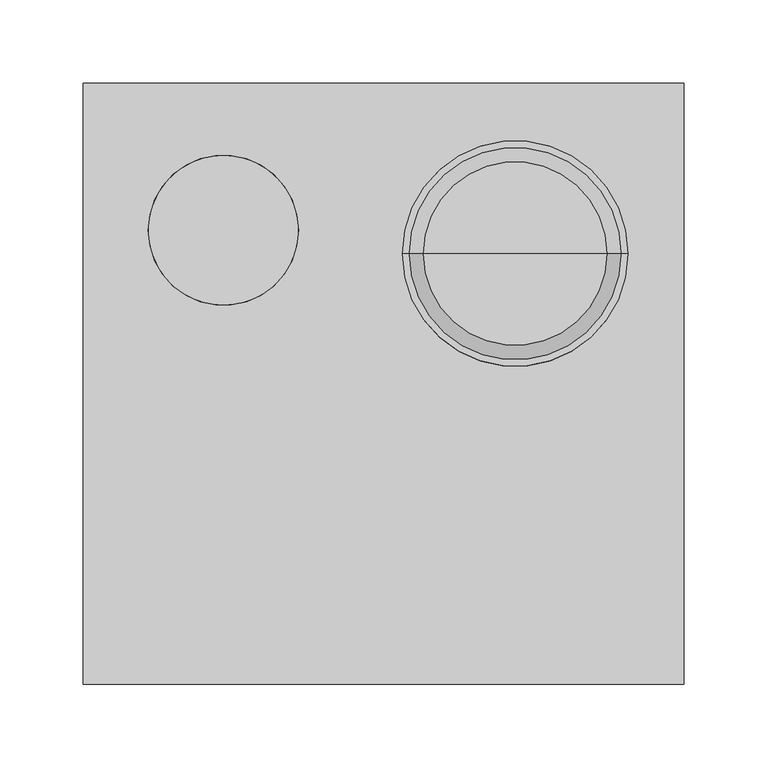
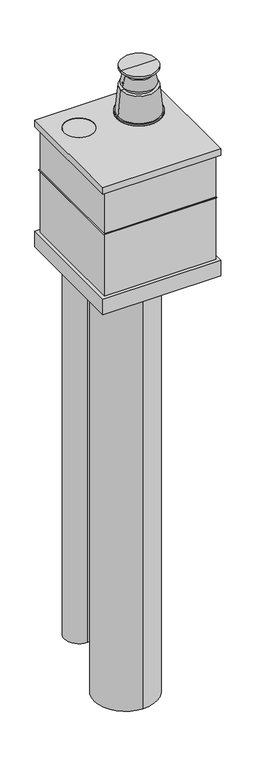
"""IFC4 building model written with IfcOpenShell, lengths in millimetres: proxy geometry, MG_BPL_Mini-Delta_M&G : NORMALE PP 60/100 XL."""

from ifc_helpers import new_model, si_unit, point, frame, frame_2d, origin, place, context, project, spatial, polyline, circle_curve, trimmed, segment, composite_curve, outline, extrude, faceted_brep, source, transform, mapped, element, save
from ifc_brep_helpers import plane_surface, cylinder_surface, revolved_surface, advanced_brep


def generic_models_c5c0e6ee(model_context):
    return source(origin(), model_context, "Body", "SolidModel", [
        advanced_brep(
        [(166.5, 78.0, 568.2650457), (-8.5, 78.0, 568.2650457), (79.0, 78.0, 568.2650457), (146.6156617, 78.0, 677.2650457), (11.3843383, 78.0, 677.2650457), (146.6156617, 78.0, 682.2650457), (11.3843383, 78.0, 682.2650457), (142.6549252, 78.0, 682.2650457), (15.3450748, 78.0, 682.2650457), (134.0, 78.0, 764.611158), (24.0, 78.0, 764.611158), (124.0, 78.0, 764.611158), (34.0, 78.0, 764.611158), (124.0, 78.0, 774.611158), (34.0, 78.0, 774.611158), (129.038744, 78.0, 774.611158), (28.961256, 78.0, 774.611158), (121.5, 78.0, 807.2650457), (36.5, 78.0, 807.2650457), (89.0, 78.0, 807.2650457), (69.0, 78.0, 807.2650457), (89.0, 78.0, 809.2457936), (69.0, 78.0, 809.2457936), (134.0, 78.0, 821.3035072), (24.0, 78.0, 821.3035072), (134.0, 78.0, 827.2650457), (24.0, 78.0, 827.2650457), (79.0, 78.0, 827.2650457)],
        [
            (0, 1, circle_curve(frame((79.0, 78.0, 568.2650457), z_axis=(0.0, 0.0, -1.0), x_axis=(-1.0, 0.0, 0.0)), 87.5)),
            (1, 2),
            (2, 0),
            (1, 0, circle_curve(frame((79.0, 78.0, 568.2650457), z_axis=(0.0, 0.0, -1.0), x_axis=(-1.0, 0.0, 0.0)), 87.5)),
            (3, 4, circle_curve(frame((79.0, 78.0, 677.2650457), z_axis=(0.0, 0.0, -1.0), x_axis=(-1.0, 0.0, 0.0)), 67.6156617)),
            (4, 1),
            (0, 3),
            (4, 3, circle_curve(frame((79.0, 78.0, 677.2650457), z_axis=(0.0, 0.0, -1.0), x_axis=(-1.0, 0.0, 0.0)), 67.6156617)),
            (5, 6, circle_curve(frame((79.0, 78.0, 682.2650457), z_axis=(0.0, 0.0, -1.0), x_axis=(-1.0, 0.0, 0.0)), 67.6156617)),
            (6, 4),
            (3, 5),
            (6, 5, circle_curve(frame((79.0, 78.0, 682.2650457), z_axis=(0.0, 0.0, -1.0), x_axis=(-1.0, 0.0, 0.0)), 67.6156617)),
            (7, 8, circle_curve(frame((79.0, 78.0, 682.2650457), z_axis=(0.0, 0.0, -1.0), x_axis=(-1.0, 0.0, 0.0)), 63.6549252)),
            (8, 6),
            (5, 7),
            (8, 7, circle_curve(frame((79.0, 78.0, 682.2650457), z_axis=(0.0, 0.0, -1.0), x_axis=(-1.0, 0.0, 0.0)), 63.6549252)),
            (9, 10, circle_curve(frame((79.0, 78.0, 764.611158), z_axis=(0.0, 0.0, -1.0), x_axis=(-1.0, 0.0, 0.0)), 55.0)),
            (10, 8),
            (7, 9),
            (10, 9, circle_curve(frame((79.0, 78.0, 764.611158), z_axis=(0.0, 0.0, -1.0), x_axis=(-1.0, 0.0, 0.0)), 55.0)),
            (11, 12, circle_curve(frame((79.0, 78.0, 764.611158), z_axis=(0.0, 0.0, -1.0), x_axis=(-1.0, 0.0, 0.0)), 45.0)),
            (12, 10),
            (9, 11),
            (12, 11, circle_curve(frame((79.0, 78.0, 764.611158), z_axis=(0.0, 0.0, -1.0), x_axis=(-1.0, 0.0, 0.0)), 45.0)),
            (13, 14, circle_curve(frame((79.0, 78.0, 774.611158), z_axis=(0.0, 0.0, -1.0), x_axis=(-1.0, 0.0, 0.0)), 45.0)),
            (14, 12),
            (11, 13),
            (14, 13, circle_curve(frame((79.0, 78.0, 774.611158), z_axis=(0.0, 0.0, -1.0), x_axis=(-1.0, 0.0, 0.0)), 45.0)),
            (15, 16, circle_curve(frame((79.0, 78.0, 774.611158), z_axis=(0.0, 0.0, -1.0), x_axis=(-1.0, 0.0, 0.0)), 50.038744)),
            (16, 14),
            (13, 15),
            (16, 15, circle_curve(frame((79.0, 78.0, 774.611158), z_axis=(0.0, 0.0, -1.0), x_axis=(-1.0, 0.0, 0.0)), 50.038744)),
            (17, 18, circle_curve(frame((79.0, 78.0, 807.2650457), z_axis=(0.0, 0.0, -1.0), x_axis=(-1.0, 0.0, 0.0)), 42.5)),
            (18, 16),
            (15, 17),
            (18, 17, circle_curve(frame((79.0, 78.0, 807.2650457), z_axis=(0.0, 0.0, -1.0), x_axis=(-1.0, 0.0, 0.0)), 42.5)),
            (19, 20, circle_curve(frame((79.0, 78.0, 807.2650457), z_axis=(0.0, 0.0, -1.0), x_axis=(-1.0, 0.0, 0.0)), 10.0)),
            (20, 18),
            (17, 19),
            (20, 19, circle_curve(frame((79.0, 78.0, 807.2650457), z_axis=(0.0, 0.0, -1.0), x_axis=(-1.0, 0.0, 0.0)), 10.0)),
            (21, 22, circle_curve(frame((79.0, 78.0, 809.2457936), z_axis=(0.0, 0.0, -1.0), x_axis=(-1.0, 0.0, 0.0)), 10.0)),
            (22, 20),
            (19, 21),
            (22, 21, circle_curve(frame((79.0, 78.0, 809.2457936), z_axis=(0.0, 0.0, -1.0), x_axis=(-1.0, 0.0, 0.0)), 10.0)),
            (23, 24, circle_curve(frame((79.0, 78.0, 821.3035072), z_axis=(0.0, 0.0, -1.0), x_axis=(-1.0, 0.0, 0.0)), 55.0)),
            (24, 22),
            (21, 23),
            (24, 23, circle_curve(frame((79.0, 78.0, 821.3035072), z_axis=(0.0, 0.0, -1.0), x_axis=(-1.0, 0.0, 0.0)), 55.0)),
            (25, 26, circle_curve(frame((79.0, 78.0, 827.2650457), z_axis=(0.0, 0.0, -1.0), x_axis=(-1.0, 0.0, 0.0)), 55.0)),
            (26, 24),
            (23, 25),
            (26, 25, circle_curve(frame((79.0, 78.0, 827.2650457), z_axis=(0.0, 0.0, -1.0), x_axis=(-1.0, 0.0, 0.0)), 55.0)),
            (27, 26),
            (25, 27),
        ],
        [
            plane_surface(frame((79.0, 78.0, 568.2650457), z_axis=(0.0, 0.0, -1.0), x_axis=(-1.0, 0.0, 0.0))),
            revolved_surface(polyline([(-8.5, 78.0, 568.2650457), (11.3843383, 78.0, 677.2650457)]), (79.0, 78.0, -231.4661326), (0.0, 0.0, 1.0)),
            cylinder_surface(frame((79.0, 78.0, -231.4661326), z_axis=(0.0, 0.0, 1.0), x_axis=(-1.0, 0.0, 0.0)), 67.6156617),
            plane_surface(frame((79.0, 78.0, 682.2650457), z_axis=(0.0, 0.0, 1.0), x_axis=(-1.0, 0.0, 0.0))),
            revolved_surface(polyline([(15.3450748, 78.0, 682.2650457), (24.0, 78.0, 764.611158)]), (79.0, 78.0, -231.4661326), (0.0, 0.0, 1.0)),
            plane_surface(frame((79.0, 78.0, 764.611158), z_axis=(0.0, 0.0, 1.0), x_axis=(-1.0, 0.0, 0.0))),
            cylinder_surface(frame((79.0, 78.0, -231.4661326), z_axis=(0.0, 0.0, 1.0), x_axis=(-1.0, 0.0, 0.0)), 45.0),
            plane_surface(frame((79.0, 78.0, 774.611158), z_axis=(0.0, 0.0, -1.0), x_axis=(-1.0, 0.0, 0.0))),
            revolved_surface(polyline([(28.961256, 78.0, 774.611158), (36.5, 78.0, 807.2650457)]), (79.0, 78.0, -231.4661326), (0.0, 0.0, 1.0)),
            plane_surface(frame((79.0, 78.0, 807.2650457), z_axis=(0.0, 0.0, 1.0), x_axis=(-1.0, 0.0, 0.0))),
            cylinder_surface(frame((79.0, 78.0, -231.4661326), z_axis=(0.0, 0.0, 1.0), x_axis=(-1.0, 0.0, 0.0)), 10.0),
            revolved_surface(polyline([(69.0, 78.0, 809.2457936), (24.0, 78.0, 821.3035072)]), (79.0, 78.0, -231.4661326), (0.0, 0.0, 1.0)),
            cylinder_surface(frame((79.0, 78.0, -231.4661326), z_axis=(0.0, 0.0, 1.0), x_axis=(-1.0, 0.0, 0.0)), 55.0),
            plane_surface(frame((79.0, 78.0, 827.2650457), z_axis=(0.0, 0.0, 1.0), x_axis=(-1.0, 0.0, 0.0))),
        ],
        [
            (0, [[1, 2, 3]]),
            (0, [[4, -3, -2]]),
            (1, [[5, 6, -1, 7]]),
            (1, [[8, -7, -4, -6]]),
            (2, [[9, 10, -5, 11]]),
            (2, [[12, -11, -8, -10]]),
            (3, [[13, 14, -9, 15]]),
            (3, [[16, -15, -12, -14]]),
            (4, [[17, 18, -13, 19]]),
            (4, [[20, -19, -16, -18]]),
            (5, [[21, 22, -17, 23]]),
            (5, [[24, -23, -20, -22]]),
            (6, [[25, 26, -21, 27]]),
            (6, [[28, -27, -24, -26]]),
            (7, [[29, 30, -25, 31]]),
            (7, [[32, -31, -28, -30]]),
            (8, [[33, 34, -29, 35]]),
            (8, [[36, -35, -32, -34]]),
            (9, [[37, 38, -33, 39]]),
            (9, [[40, -39, -36, -38]]),
            (10, [[41, 42, -37, 43]]),
            (10, [[44, -43, -40, -42]]),
            (11, [[45, 46, -41, 47]]),
            (11, [[48, -47, -44, -46]]),
            (12, [[49, 50, -45, 51]]),
            (12, [[52, -51, -48, -50]]),
            (13, [[53, -49, 54]]),
            (13, [[-54, -52, -53]]),
        ],
    ),
        extrude(outline(polyline([(172.5, 172.5), (172.5, -172.5), (-172.5, -172.5), (-172.5, 172.5), (172.5, 172.5)])), frame((0.0, 0.0, 518.2650457), z_axis=(0.0, 0.0, 1.0), x_axis=(1.0, 0.0, 0.0)), (0.0, 0.0, 1.0), 1.3),
        extrude(outline(composite_curve([segment(trimmed(circle_curve(frame_2d((-96.0, 92.0)), 45.0), [point((-96.0, 47.0))], [point((-96.0, 137.0))], False, "CARTESIAN"), True, "CONTINUOUS"), segment(trimmed(circle_curve(frame_2d((-96.0, 92.0)), 45.0), [point((-96.0, 137.0))], [point((-96.0, 47.0))], False, "CARTESIAN"), True, "CONTINUOUS")], self_intersect=False)), frame((0.0, 0.0, -957.7349543), z_axis=(0.0, 0.0, 1.0), x_axis=(1.0, 0.0, 0.0)), (0.0, 0.0, 1.0), 1633.7),
        extrude(outline(composite_curve([segment(trimmed(circle_curve(frame_2d((79.0, 78.0)), 50.0), [point((79.0, 28.0))], [point((79.0, 128.0))], False, "CARTESIAN"), True, "CONTINUOUS"), segment(trimmed(circle_curve(frame_2d((79.0, 78.0)), 50.0), [point((79.0, 128.0))], [point((79.0, 28.0))], False, "CARTESIAN"), True, "CONTINUOUS")], self_intersect=False)), frame((0.0, 0.0, -791.7349543), z_axis=(0.0, 0.0, 1.0), x_axis=(1.0, 0.0, 0.0)), (0.0, 0.0, 1.0), 1449.0),
        extrude(outline(composite_curve([segment(trimmed(circle_curve(frame_2d((-31.0, -41.0)), 95.0), [point((-31.0, -136.0))], [point((-31.0, 54.0))], False, "CARTESIAN"), True, "CONTINUOUS"), segment(trimmed(circle_curve(frame_2d((-31.0, -41.0)), 95.0), [point((-31.0, 54.0))], [point((-31.0, -136.0))], False, "CARTESIAN"), True, "CONTINUOUS")], self_intersect=False)), frame((0.0, 0.0, -1083.7349543), z_axis=(0.0, 0.0, 1.0), x_axis=(1.0, 0.0, 0.0)), (0.0, 0.0, 1.0), 1500.0),
        advanced_brep(
        [(180.0, 180.0, 677.2650457), (-180.0, 180.0, 677.2650457), (-180.0, -180.0, 677.2650457), (180.0, -180.0, 677.2650457), (-141.0, 92.0, 677.2650457), (-51.0, 92.0, 677.2650457), (180.0, 180.0, 657.2650457), (180.0, -180.0, 657.2650457), (-180.0, -180.0, 657.2650457), (-180.0, 180.0, 657.2650457), (178.7, 178.7, 657.2650457), (-178.7, 178.7, 657.2650457), (-178.7, -178.7, 657.2650457), (178.7, -178.7, 657.2650457), (170.0, 170.0, 657.2650457), (170.0, -170.0, 657.2650457), (-170.0, -170.0, 657.2650457), (-170.0, 170.0, 657.2650457), (168.7, -168.7, 657.2650457), (168.7, 168.7, 657.2650457), (-168.7, 168.7, 657.2650457), (-168.7, -168.7, 657.2650457), (178.7, 178.7, 675.9650457), (178.7, -178.7, 675.9650457), (-178.7, -178.7, 675.9650457), (-178.7, 178.7, 675.9650457), (170.0, 170.0, 675.9650457), (-170.0, 170.0, 675.9650457), (-170.0, -170.0, 675.9650457), (170.0, -170.0, 675.9650457), (168.7, -168.7, 675.9650457), (-168.7, -168.7, 675.9650457), (-168.7, 168.7, 675.9650457), (168.7, 168.7, 675.9650457), (-51.0, 92.0, 675.9650457), (-141.0, 92.0, 675.9650457)],
        [
            (0, 1),
            (1, 2),
            (2, 3),
            (3, 0),
            (4, 5, circle_curve(frame((-96.0, 92.0, 677.2650457), z_axis=(0.0, 0.0, -1.0), x_axis=(1.0, 0.0, 0.0)), 45.0)),
            (5, 4, circle_curve(frame((-96.0, 92.0, 677.2650457), z_axis=(0.0, 0.0, -1.0), x_axis=(1.0, 0.0, 0.0)), 45.0)),
            (6, 7),
            (7, 8),
            (8, 9),
            (9, 6),
            (10, 11),
            (11, 12),
            (12, 13),
            (13, 10),
            (14, 15),
            (15, 16),
            (16, 17),
            (17, 14),
            (18, 19),
            (19, 20),
            (20, 21),
            (21, 18),
            (0, 6),
            (9, 1),
            (8, 2),
            (7, 3),
            (22, 23),
            (23, 24),
            (24, 25),
            (25, 22),
            (26, 27),
            (27, 28),
            (28, 29),
            (29, 26),
            (30, 31),
            (31, 32),
            (32, 33),
            (33, 30),
            (34, 35, circle_curve(frame((-96.0, 92.0, 675.9650457), z_axis=(0.0, 0.0, 1.0), x_axis=(1.0, 0.0, 0.0)), 45.0)),
            (35, 34, circle_curve(frame((-96.0, 92.0, 675.9650457), z_axis=(0.0, 0.0, 1.0), x_axis=(1.0, 0.0, 0.0)), 45.0)),
            (25, 11),
            (10, 22),
            (24, 12),
            (23, 13),
            (29, 15),
            (14, 26),
            (28, 16),
            (27, 17),
            (33, 19),
            (18, 30),
            (32, 20),
            (31, 21),
            (4, 35),
            (34, 5),
        ],
        [
            plane_surface(frame((-180.0, 180.0, 677.2650457), z_axis=(0.0, 0.0, 1.0), x_axis=(-1.0, 0.0, 0.0))),
            plane_surface(frame((-180.0, 180.0, 657.2650457), z_axis=(0.0, 0.0, -1.0), x_axis=(1.0, 0.0, 0.0))),
            plane_surface(frame((180.0, 180.0, 677.2650457), z_axis=(0.0, 1.0, 0.0), x_axis=(0.0, 0.0, -1.0))),
            plane_surface(frame((-180.0, 180.0, 677.2650457), z_axis=(-1.0, 0.0, 0.0), x_axis=(0.0, 0.0, -1.0))),
            plane_surface(frame((-180.0, -180.0, 677.2650457), z_axis=(0.0, -1.0, 0.0), x_axis=(0.0, 0.0, -1.0))),
            plane_surface(frame((180.0, -180.0, 677.2650457), z_axis=(1.0, 0.0, 0.0), x_axis=(0.0, 0.0, -1.0))),
            plane_surface(frame((-170.0, 178.7, 675.9650457), z_axis=(0.0, 0.0, -1.0), x_axis=(-1.0, 0.0, 0.0))),
            plane_surface(frame((178.7, 178.7, 675.9650457), z_axis=(0.0, -1.0, 0.0), x_axis=(0.0, 0.0, -1.0))),
            plane_surface(frame((-178.7, 178.7, 675.9650457), z_axis=(1.0, 0.0, 0.0), x_axis=(0.0, 0.0, -1.0))),
            plane_surface(frame((-178.7, -178.7, 675.9650457), z_axis=(0.0, 1.0, 0.0), x_axis=(0.0, 0.0, -1.0))),
            plane_surface(frame((178.7, -178.7, 675.9650457), z_axis=(-1.0, 0.0, 0.0), x_axis=(0.0, 0.0, -1.0))),
            plane_surface(frame((170.0, 170.0, 675.9650457), z_axis=(1.0, 0.0, 0.0), x_axis=(0.0, 0.0, -1.0))),
            plane_surface(frame((170.0, -170.0, 675.9650457), z_axis=(0.0, -1.0, 0.0), x_axis=(0.0, 0.0, -1.0))),
            plane_surface(frame((-170.0, -170.0, 675.9650457), z_axis=(-1.0, 0.0, 0.0), x_axis=(0.0, 0.0, -1.0))),
            plane_surface(frame((-170.0, 170.0, 675.9650457), z_axis=(0.0, 1.0, 0.0), x_axis=(0.0, 0.0, -1.0))),
            plane_surface(frame((168.7, -168.7, 675.9650457), z_axis=(-1.0, 0.0, 0.0), x_axis=(0.0, 0.0, -1.0))),
            plane_surface(frame((168.7, 168.7, 675.9650457), z_axis=(0.0, -1.0, 0.0), x_axis=(0.0, 0.0, -1.0))),
            plane_surface(frame((-168.7, 168.7, 675.9650457), z_axis=(1.0, 0.0, 0.0), x_axis=(0.0, 0.0, -1.0))),
            plane_surface(frame((-168.7, -168.7, 675.9650457), z_axis=(0.0, 1.0, 0.0), x_axis=(0.0, 0.0, -1.0))),
            revolved_surface(polyline([(-51.0, 92.0, 675.9650457), (-51.0, 92.0, 677.2650457)]), (-96.0, 92.0, 657.2650457), (0.0, 0.0, -1.0)),
        ],
        [
            (0, [[1, 2, 3, 4], [5, 6]]),
            (1, [[7, 8, 9, 10], [11, 12, 13, 14]]),
            (1, [[15, 16, 17, 18], [19, 20, 21, 22]]),
            (2, [[-1, 23, -10, 24]]),
            (3, [[-2, -24, -9, 25]]),
            (4, [[-3, -25, -8, 26]]),
            (5, [[-4, -26, -7, -23]]),
            (6, [[27, 28, 29, 30], [31, 32, 33, 34]]),
            (6, [[35, 36, 37, 38], [39, 40]]),
            (7, [[-30, 41, -11, 42]]),
            (8, [[-29, 43, -12, -41]]),
            (9, [[-28, 44, -13, -43]]),
            (10, [[-27, -42, -14, -44]]),
            (11, [[-34, 45, -15, 46]]),
            (12, [[-33, 47, -16, -45]]),
            (13, [[-32, 48, -17, -47]]),
            (14, [[-31, -46, -18, -48]]),
            (15, [[-38, 49, -19, 50]]),
            (16, [[-37, 51, -20, -49]]),
            (17, [[-36, 52, -21, -51]]),
            (18, [[-35, -50, -22, -52]]),
            (19, [[53, -39, 54, -5]]),
            (19, [[-53, -6, -54, -40]]),
        ],
    ),
        faceted_brep([(170.0, 170.0, 675.9650457), (-170.0, 170.0, 675.9650457), (-170.0, -170.0, 675.9650457), (170.0, -170.0, 675.9650457), (168.7, 168.7, 675.9650457), (168.7, -168.7, 675.9650457), (-168.7, -168.7, 675.9650457), (-168.7, 168.7, 675.9650457), (170.0, 170.0, 318.2650457), (170.0, -170.0, 318.2650457), (-170.0, -170.0, 318.2650457), (-170.0, 170.0, 318.2650457), (168.7, 168.7, 318.2650457), (-168.7, 168.7, 318.2650457), (-168.7, -168.7, 318.2650457), (168.7, -168.7, 318.2650457), (170.0, 170.0, 657.2650457), (-170.0, 170.0, 657.2650457), (-170.0, -170.0, 657.2650457), (170.0, -170.0, 657.2650457), (168.7, 168.7, 657.2650457), (168.7, -168.7, 657.2650457), (-168.7, -168.7, 657.2650457), (-168.7, 168.7, 657.2650457)], [[[0, 1, 2, 3], [4, 5, 6, 7]], [[8, 9, 10, 11], [12, 13, 14, 15]], [[1, 0, 16, 8, 11, 17]], [[2, 1, 17, 11, 10, 18]], [[3, 2, 18, 10, 9, 19]], [[0, 3, 19, 9, 8, 16]], [[5, 4, 20, 12, 15, 21]], [[6, 5, 21, 15, 14, 22]], [[7, 6, 22, 14, 13, 23]], [[4, 7, 23, 13, 12, 20]]]),
        faceted_brep([(180.0, 180.0, 268.2650457), (180.0, -180.0, 268.2650457), (-180.0, -180.0, 268.2650457), (-180.0, 180.0, 268.2650457), (178.7, 178.7, 268.2650457), (-178.7, 178.7, 268.2650457), (-178.7, 78.3, 268.2650457), (178.7, 78.3, 268.2650457), (180.0, 180.0, 318.2650457), (-180.0, 180.0, 318.2650457), (-180.0, -180.0, 318.2650457), (180.0, -180.0, 318.2650457), (178.7, 178.7, 316.9650457), (178.7, 78.3, 316.9650457), (-178.7, 78.3, 316.9650457), (-178.7, 178.7, 316.9650457)], [[[0, 1, 2, 3], [4, 5, 6, 7]], [[8, 9, 10, 11]], [[0, 3, 9, 8]], [[3, 2, 10, 9]], [[2, 1, 11, 10]], [[1, 0, 8, 11]], [[12, 13, 14, 15]], [[12, 15, 5, 4]], [[15, 14, 6, 5]], [[14, 13, 7, 6]], [[13, 12, 4, 7]]]),
    ])


if __name__ == "__main__":
    model = new_model("IFC4")
    model_context = context("Model", 3, world=origin())
    ifc_project = project(units=[si_unit("LENGTHUNIT", "METRE", prefix="MILLI")], contexts=[model_context])
    site = spatial("IfcSite", under=ifc_project)
    building = spatial("IfcBuilding", under=site)
    placement = place(None, origin())
    generic_models_shape = generic_models_c5c0e6ee(model_context)
    element("IfcBuildingElementProxy", 1, Name="MG_BPL_Mini-Delta_M&G : NORMALE PP 60/100 XL", ObjectType="MG_BPL_Mini-Delta_M&G : NORMALE PP 60/100 XL", at=placement, inside=building, context=model_context, shape_type="MappedRepresentation", body=[
        mapped(generic_models_shape, transform((0.0, 0.0, 0.0), x_axis=(1.0, 0.0, 0.0), y_axis=(0.0, 1.0, 0.0), z_axis=(0.0, 0.0, 1.0))),
    ])
    save(model, "model.ifc")
